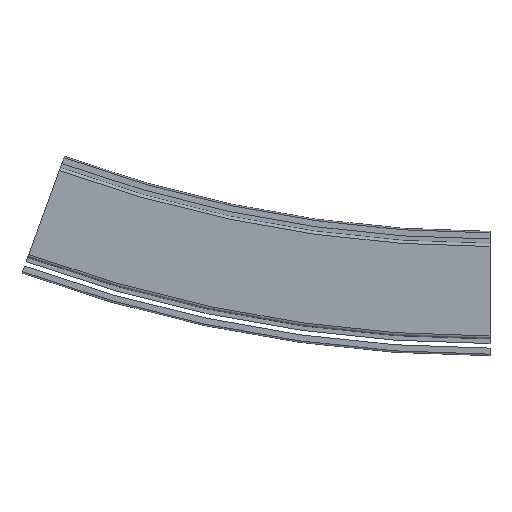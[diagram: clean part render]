
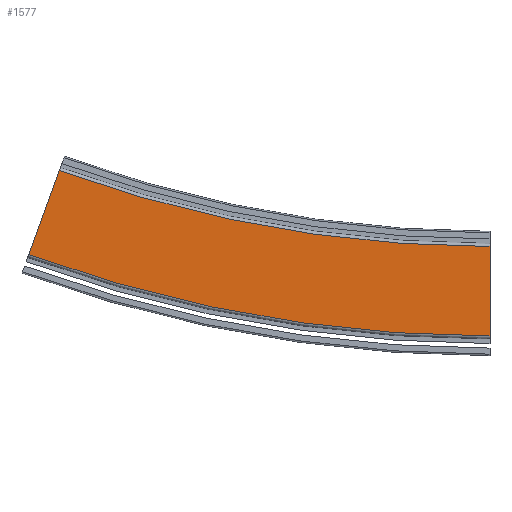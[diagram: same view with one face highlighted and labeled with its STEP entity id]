
A CAD part, left-side view. The second image highlights one B-rep face of the part: STEP entity #1577.
In plain terms, the highlighted planar face has unit normal (-1, 0, 0).
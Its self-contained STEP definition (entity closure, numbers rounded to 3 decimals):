
#126=PLANE('',#1712);
#200=FACE_OUTER_BOUND('',#292,.T.);
#292=EDGE_LOOP('',(#1300,#1301,#1302,#1303));
#360=CIRCLE('',#1711,830.5);
#361=CIRCLE('',#1713,889.5);
#464=LINE('',#7170,#590);
#465=LINE('',#7172,#591);
#590=VECTOR('',#2010,10.);
#591=VECTOR('',#2011,10.);
#750=VERTEX_POINT('',#7163);
#751=VERTEX_POINT('',#7165);
#752=VERTEX_POINT('',#7169);
#753=VERTEX_POINT('',#7171);
#950=EDGE_CURVE('',#750,#751,#360,.T.);
#951=EDGE_CURVE('',#752,#750,#464,.T.);
#952=EDGE_CURVE('',#753,#751,#465,.T.);
#953=EDGE_CURVE('',#752,#753,#361,.T.);
#1300=ORIENTED_EDGE('',*,*,#951,.T.);
#1301=ORIENTED_EDGE('',*,*,#950,.T.);
#1302=ORIENTED_EDGE('',*,*,#952,.F.);
#1303=ORIENTED_EDGE('',*,*,#953,.F.);
#1577=ADVANCED_FACE('',(#200),#126,.T.);
#1711=AXIS2_PLACEMENT_3D('',#7167,#2006,#2007);
#1712=AXIS2_PLACEMENT_3D('',#7168,#2008,#2009);
#1713=AXIS2_PLACEMENT_3D('',#7173,#2012,#2013);
#2006=DIRECTION('center_axis',(1.,0.,0.));
#2007=DIRECTION('ref_axis',(0.,0.,
-1.));
#2008=DIRECTION('center_axis',(-1.,0.,0.));
#2009=DIRECTION('ref_axis',(0.,0.,1.));
#2010=DIRECTION('',(0.,0.,1.));
#2011=DIRECTION('',(0.,-0.342,0.94));
#2012=DIRECTION('center_axis',(1.,0.,0.));
#2013=DIRECTION('ref_axis',(0.,0.,
-1.));
#7163=CARTESIAN_POINT('',(-43.,0.,29.5));
#7165=CARTESIAN_POINT('',(-43.,284.048,79.585));
#7167=CARTESIAN_POINT('Origin',(-43.,0.,
860.));
#7168=CARTESIAN_POINT('Origin',(-43.,0.,-29.5));
#7169=CARTESIAN_POINT('',(-43.,0.,-29.5));
#7170=CARTESIAN_POINT('',(-43.,0.,-29.5));
#7171=CARTESIAN_POINT('',(-43.,304.227,24.143));
#7172=CARTESIAN_POINT('',(-43.,304.227,24.143));
#7173=CARTESIAN_POINT('Origin',(-43.,0.,
860.));
